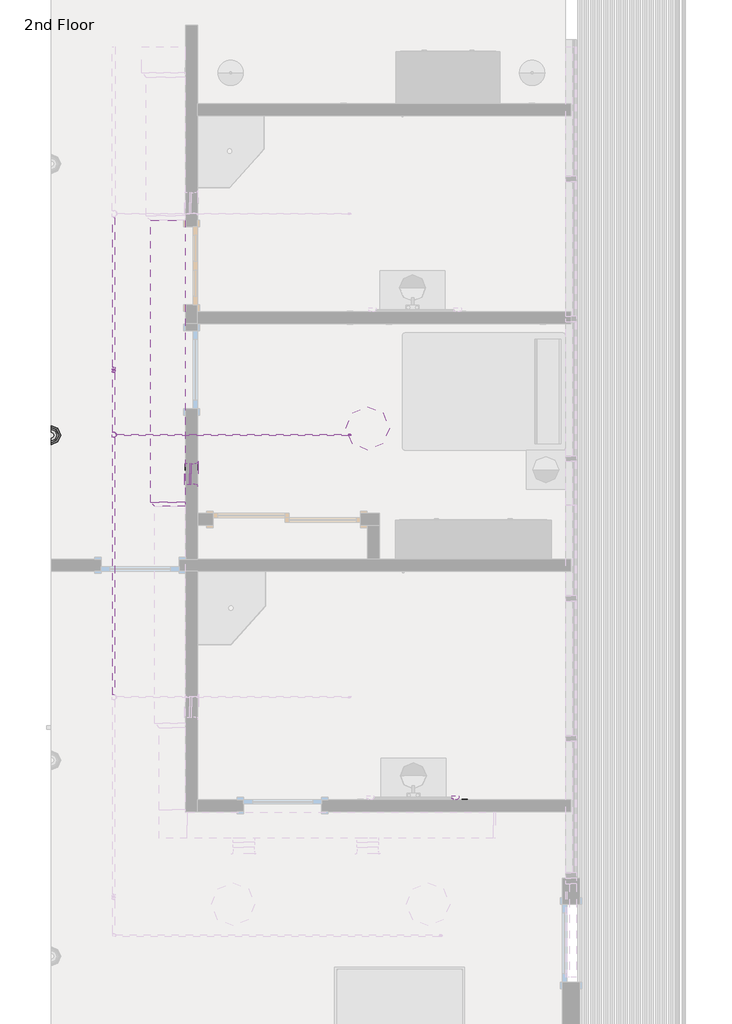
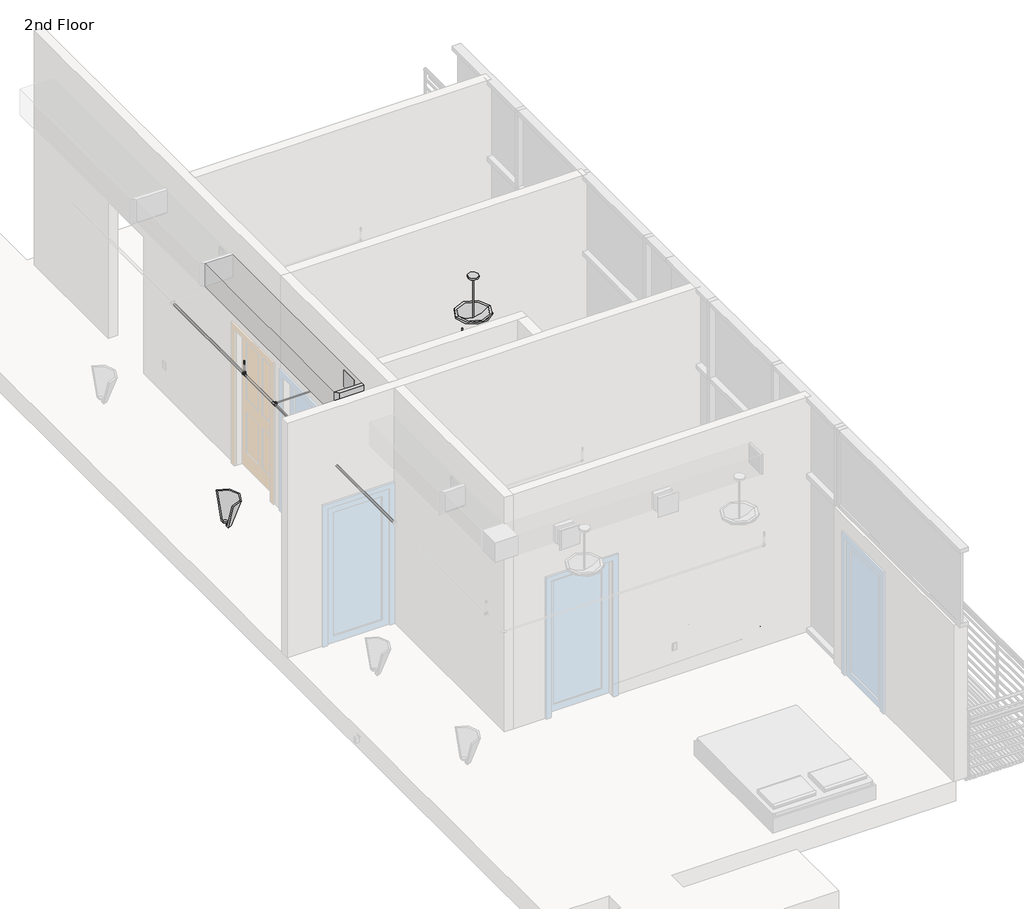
# One storey, part 4 of 7: 26 pipe fittings, 26 pipe segments, 3 light fixtures, 3 proxies, 2 duct fittings, 2 duct segments, 2 fire suppression terminals, 1 air terminal.
"""IFC4 building model written with IfcOpenShell, lengths in millimetres."""

from ifc_helpers import new_model, si_unit, point, frame, frame_2d, origin, place, context, project, spatial, polyline, circle_curve, trimmed, segment, composite_curve, outline, extrude, transform, mapped, element, save
from components import air_terminal_37217d21, receptacle_gfci_367a9a66, rectangular_duct_takeoff_sidewall_standard_8ecd27dc, rectangular_duct_transition_standard_28b61a07, fire_suppression_terminal_f250fbbb, pendant_light_hemisphere_100w_120v_61837e73, sconce_light_uplight_100w_120v_70b3641e, bow_series_bow_series_fd234733, pipe_cross1_standard_2_39504a02, pipe_elbow_standard_aad62f2d, pipe_elbow_standard_e0f7415f, pipe_pvc_bend_standard_7b507ca5, pipe_pvc_bend_standard_cea5d147, pipe_tee_standard_1a6ca384, pipe_tee_standard_feafe2f1, pipe_transition_eccentric_standard_8ef0957a, pipe_transition_eccentric_standard_3095b3c8, pipe_transition_eccentric_standard_1e99e33f

model = new_model("IFC4")

# Units and contexts
model_context = context("Model", 3, world=origin())
ifc_project = project(units=[si_unit("LENGTHUNIT", "METRE", prefix="MILLI")], contexts=[model_context])

# Site, building, storey
site = spatial("IfcSite", under=ifc_project)
building = spatial("IfcBuilding", under=site)
storey = spatial("IfcBuildingStorey", under=building, Name="2nd Floor", Elevation=7924.8)

# Air terminal
placement = place(None, origin())
air_terminal_shape = air_terminal_37217d21(model_context)
element("IfcAirTerminal", 1, ObjectType="Sidewall Diffuser : 10\" x 10\"", at=placement, inside=storey, context=model_context, shape_type="MappedRepresentation", body=[
    mapped(air_terminal_shape, transform((-2750.6530996, 1101.4310017, 10972.8), x_axis=(0.0, 1.0, 0.0), y_axis=(-1.0, 0.0, 0.0), z_axis=(0.0, 0.0, 1.0))),
])

# Proxies
receptacle_gfci_shape = receptacle_gfci_367a9a66(model_context)
element("IfcBuildingElementProxy", 2, Name="Receptacle : Standard", ObjectType="Receptacle : Standard", at=placement, inside=storey, context=model_context, shape_type="MappedRepresentation", body=[
    mapped(receptacle_gfci_shape, transform((-2749.3104947, 1177.6310017, 8382.0), x_axis=(0.0, 1.0, 0.0), y_axis=(0.0, 0.0, 1.0), z_axis=(1.0, 0.0, 0.0))),
])
element("IfcBuildingElementProxy", 3, Name="Receptacle : Standard", ObjectType="Receptacle : Standard", at=placement, inside=storey, context=model_context, shape_type="MappedRepresentation", body=[
    mapped(receptacle_gfci_shape, transform((381.2395053, -2714.9189983, 8382.0), x_axis=(-1.0, 0.0, 0.0), y_axis=(0.0, 0.0, 1.0), z_axis=(0.0, 1.0, 0.0))),
])
element("IfcBuildingElementProxy", 4, Name="Receptacle : Standard", ObjectType="Receptacle : Standard", at=placement, inside=storey, context=model_context, shape_type="MappedRepresentation", body=[
    mapped(receptacle_gfci_shape, transform((-2889.0104947, 1177.6310017, 8382.0), x_axis=(0.0, -1.0, 0.0), y_axis=(0.0, 0.0, 1.0), z_axis=(-1.0, 0.0, 0.0))),
])

# Duct fittings
rectangular_duct_takeoff_sidewall_standard_shape = rectangular_duct_takeoff_sidewall_standard_8ecd27dc(model_context)
element("IfcDuctFitting", 5, ObjectType="Rectangular Duct Takeoff - Sidewall : Standard", at=placement, inside=storey, context=model_context, shape_type="MappedRepresentation", body=[
    mapped(rectangular_duct_takeoff_sidewall_standard_shape, transform((-2895.3604947, 1101.4310017, 10972.8), x_axis=(1.0, 0.0, 0.0), y_axis=(0.0, -1.0, 0.0), z_axis=(0.0, 0.0, -1.0))),
])
rectangular_duct_transition_standard_shape = rectangular_duct_transition_standard_28b61a07(model_context)
element("IfcDuctFitting", 6, ObjectType="Rectangular Duct Transition : Standard", at=placement, inside=storey, context=model_context, shape_type="MappedRepresentation", body=[
    mapped(rectangular_duct_transition_standard_shape, transform((-3073.1604947, 720.4310017, 10998.2), x_axis=(0.0, 1.0, 0.0), y_axis=(1.0, 0.0, 0.0), z_axis=(0.0, 0.0, -1.0))),
])

# Duct segments
element("IfcDuctSegment", 7, ObjectType="Mitered Elbows / Taps Sidewall", at=placement, inside=storey, context=model_context, shape_type="SweptSolid", body=[
    extrude(outline(polyline([(-2844.5604947, 974.4310017), (-2844.5604947, 1228.4310017), (-2826.8530996, 1228.4310017), (-2826.8530996, 974.4310017), (-2844.5604947, 974.4310017)])), frame((0.0, 0.0, 10845.8), z_axis=(0.0, 0.0, 1.0), x_axis=(1.0, 0.0, 0.0)), (0.0, 0.0, 1.0), 254.0),
])
element("IfcDuctSegment", 8, ObjectType="Mitered Elbows / Tees", at=placement, inside=storey, context=model_context, shape_type="SweptSolid", body=[
    extrude(outline(polyline([(-2895.3604947, 771.2310017), (-3301.7604947, 771.2310017), (-3301.7604947, 4073.2310017), (-2895.3604947, 4073.2310017), (-2895.3604947, 771.2310017)])), frame((0.0, 0.0, 10820.4), z_axis=(0.0, 0.0, 1.0), x_axis=(1.0, 0.0, 0.0)), (0.0, 0.0, 1.0), 355.6),
])

# Fire suppression terminals
fire_suppression_terminal_shape = fire_suppression_terminal_f250fbbb(model_context)
element("IfcFireSuppressionTerminal", 9, ObjectType="Sprinkler - Upright : 1/2\" Upright", at=placement, inside=storey, context=model_context, shape_type="MappedRepresentation", body=[
    mapped(fire_suppression_terminal_shape, transform((-3733.5604947, 2320.6310017, 10820.4), x_axis=(1.0, 0.0, 0.0), y_axis=(0.0, 1.0, 0.0), z_axis=(0.0, 0.0, 1.0))),
])
element("IfcFireSuppressionTerminal", 10, ObjectType="Sprinkler - Upright : 1/2\" Upright", at=placement, inside=storey, context=model_context, shape_type="MappedRepresentation", body=[
    mapped(fire_suppression_terminal_shape, transform((-961.8439612, 1558.6310017, 10820.4), x_axis=(1.0, 0.0, 0.0), y_axis=(0.0, 1.0, 0.0), z_axis=(0.0, 0.0, 1.0))),
])

# Light fixtures
pendant_light_hemisphere_100w_120v_shape = pendant_light_hemisphere_100w_120v_61837e73(model_context)
element("IfcLightFixture", 11, ObjectType="Pendant Light - Hemisphere : 150W - 120V", at=placement, inside=storey, context=model_context, shape_type="MappedRepresentation", body=[
    mapped(pendant_light_hemisphere_100w_120v_shape, transform((-755.4104947, 1634.8310017, 11582.4), x_axis=(1.0, 0.0, 0.0), y_axis=(0.0, -1.0, 0.0), z_axis=(0.0, 0.0, -1.0))),
])
sconce_light_uplight_100w_120v_shape = sconce_light_uplight_100w_120v_70b3641e(model_context)
element("IfcLightFixture", 12, ObjectType="Sconce Light - Uplight : 60W - 120V", at=placement, inside=storey, context=model_context, shape_type="MappedRepresentation", body=[
    mapped(sconce_light_uplight_100w_120v_shape, transform((-4467.0439612, 1555.1174546, 9245.6), x_axis=(0.0, 1.0, 0.0), y_axis=(0.0, 0.0, 1.0), z_axis=(1.0, 0.0, 0.0))),
])
bow_series_bow_series_shape = bow_series_bow_series_fd234733(model_context)
element("IfcLightFixture", 13, ObjectType="bow series : bow series", at=placement, inside=storey, context=model_context, shape_type="MappedRepresentation", body=[
    mapped(bow_series_bow_series_shape, transform((274.0311388, -2679.1938983, 9144.0), x_axis=(-1.0, 0.0, 0.0), y_axis=(0.0, -1.0, 0.0), z_axis=(0.0, 0.0, 1.0))),
])

# Pipe fittings
pipe_cross1_standard_2_shape = pipe_cross1_standard_2_39504a02(model_context)
element("IfcPipeFitting", 14, ObjectType="Pipe Cross1 : Standard 2", at=placement, inside=storey, context=model_context, shape_type="MappedRepresentation", body=[
    mapped(pipe_cross1_standard_2_shape, transform((-937.0514215, 9.357427, 7213.6), x_axis=(1.0, 0.0, 0.0), y_axis=(0.0, 1.0, 0.0), z_axis=(0.0, 0.0, 1.0))),
])
pipe_elbow_standard_shape = pipe_elbow_standard_aad62f2d(model_context)
element("IfcPipeFitting", 15, ObjectType="Pipe Elbow : Standard", at=placement, inside=storey, context=model_context, shape_type="MappedRepresentation", body=[
    mapped(pipe_elbow_standard_shape, transform((1153.0952272, -2786.7000325, 8185.15), x_axis=(0.0, -1.0, 0.0), y_axis=(0.0, 0.0, -1.0), z_axis=(1.0, 0.0, 0.0))),
])
element("IfcPipeFitting", 16, ObjectType="Pipe Elbow : Standard", at=placement, inside=storey, context=model_context, shape_type="MappedRepresentation", body=[
    mapped(pipe_elbow_standard_shape, transform((949.8952272, -2761.2999309, 8185.15), x_axis=(0.0, 0.0, 1.0), y_axis=(0.0, 1.0, 0.0), z_axis=(-1.0, 0.0, 0.0))),
])
element("IfcPipeFitting", 17, ObjectType="Pipe Elbow : Standard", at=placement, inside=storey, context=model_context, shape_type="MappedRepresentation", body=[
    mapped(pipe_elbow_standard_shape, transform((1153.1064509, -2786.7000325, 7315.2), x_axis=(0.0, 0.0, -1.0), y_axis=(-1.0, 0.0, 0.0), z_axis=(0.0, 1.0, 0.0))),
])
element("IfcPipeFitting", 18, ObjectType="Pipe Elbow : Standard", at=placement, inside=storey, context=model_context, shape_type="MappedRepresentation", body=[
    mapped(pipe_elbow_standard_shape, transform((949.8952272, -2761.2999309, 7213.6), x_axis=(0.0, 0.0, -1.0), y_axis=(-1.0, 0.0, 0.0), z_axis=(0.0, 1.0, 0.0))),
])
element("IfcPipeFitting", 19, ObjectType="Pipe Elbow : Standard", at=placement, inside=storey, context=model_context, shape_type="MappedRepresentation", body=[
    mapped(pipe_elbow_standard_shape, transform((-3324.0439612, 48.7450979, 7315.2), x_axis=(0.0, 1.0, 0.0), y_axis=(1.0, 0.0, 0.0), z_axis=(0.0, 0.0, -1.0))),
])
element("IfcPipeFitting", 20, ObjectType="Pipe Elbow : Standard", at=placement, inside=storey, context=model_context, shape_type="MappedRepresentation", body=[
    mapped(pipe_elbow_standard_shape, transform((-2473.0812086, 48.7450979, 8839.2), x_axis=(0.0, 0.0, 1.0), y_axis=(0.0, -1.0, 0.0), z_axis=(1.0, 0.0, 0.0))),
])
element("IfcPipeFitting", 21, ObjectType="Pipe Elbow : Standard", at=placement, inside=storey, context=model_context, shape_type="MappedRepresentation", body=[
    mapped(pipe_elbow_standard_shape, transform((-2244.6258143, 9.3575556, 8839.2), x_axis=(0.0, 0.0, 1.0), y_axis=(0.0, -1.0, 0.0), z_axis=(1.0, 0.0, 0.0))),
])
pipe_elbow_standard_2_shape = pipe_elbow_standard_e0f7415f(model_context)
element("IfcPipeFitting", 22, ObjectType="Pipe Elbow : Standard", at=placement, inside=storey, context=model_context, shape_type="MappedRepresentation", body=[
    mapped(pipe_elbow_standard_2_shape, transform((-3260.5439612, 9.3576611, 7213.6), x_axis=(0.0, 1.0, 0.0), y_axis=(1.0, 0.0, 0.0), z_axis=(0.0, 0.0, -1.0))),
])
element("IfcPipeFitting", 23, ObjectType="Pipe Elbow1 : Standard 2", at=placement, inside=storey, context=model_context, shape_type="MappedRepresentation", body=[
    mapped(pipe_elbow_standard_shape, transform((-961.8439612, 1558.6310017, 10668.0), x_axis=(0.0, 0.0, -1.0), y_axis=(-1.0, 0.0, 0.0), z_axis=(0.0, 1.0, 0.0))),
])
element("IfcPipeFitting", 24, ObjectType="Pipe Elbow1 : Standard 2", at=placement, inside=storey, context=model_context, shape_type="MappedRepresentation", body=[
    mapped(pipe_elbow_standard_shape, transform((-339.8482555, 9.357427, 8428.0375), x_axis=(0.0, 1.0, 0.0), y_axis=(0.0, 0.0, -1.0), z_axis=(-1.0, 0.0, 0.0))),
])
element("IfcPipeFitting", 25, ObjectType="Pipe Elbow1 : Standard 2", at=placement, inside=storey, context=model_context, shape_type="MappedRepresentation", body=[
    mapped(pipe_elbow_standard_shape, transform((-339.8482555, 9.357427, 7213.6), x_axis=(0.0, 0.0, -1.0), y_axis=(-1.0, 0.0, 0.0), z_axis=(0.0, 1.0, 0.0))),
])
pipe_pvc_bend_standard_shape = pipe_pvc_bend_standard_7b507ca5(model_context)
element("IfcPipeFitting", 26, ObjectType="Pipe PVC Bend : Standard", at=placement, inside=storey, context=model_context, shape_type="MappedRepresentation", body=[
    mapped(pipe_pvc_bend_standard_shape, transform((1051.4952322, -2437.106294, 7607.9329509), x_axis=(0.0, -0.9997830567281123, 0.02082881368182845), y_axis=(0.0, 0.02082881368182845, 0.9997830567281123), z_axis=(-1.0, 0.0, 0.0))),
])
pipe_pvc_bend_standard_2_shape = pipe_pvc_bend_standard_cea5d147(model_context)
element("IfcPipeFitting", 27, ObjectType="Pipe PVC Bend : Standard", at=placement, inside=storey, context=model_context, shape_type="MappedRepresentation", body=[
    mapped(pipe_pvc_bend_standard_2_shape, transform((1051.4952322, -2148.4058495, 7601.9183583), x_axis=(0.0, 0.9997830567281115, -0.0208288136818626), y_axis=(-0.9997832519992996, -0.0004336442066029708, -0.020814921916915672), z_axis=(-0.020819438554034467, 0.020824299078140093, 0.9995663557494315))),
])
pipe_tee_standard_shape = pipe_tee_standard_1a6ca384(model_context)
element("IfcPipeFitting", 28, ObjectType="Pipe Tee : Standard", at=placement, inside=storey, context=model_context, shape_type="MappedRepresentation", body=[
    mapped(pipe_tee_standard_shape, transform((-2473.0812086, 48.7450979, 7315.2), x_axis=(-1.0, 0.0, 0.0), y_axis=(0.0, 0.0, -1.0), z_axis=(0.0, -1.0, 0.0))),
])
element("IfcPipeFitting", 29, ObjectType="Pipe Tee : Standard", at=placement, inside=storey, context=model_context, shape_type="MappedRepresentation", body=[
    mapped(pipe_tee_standard_shape, transform((-2244.6258143, 9.3575556, 7213.6), x_axis=(-0.9999999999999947, 1.0385845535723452e-07, 0.0), y_axis=(0.0, 0.0, -1.0000000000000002), z_axis=(-1.0385845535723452e-07, -0.9999999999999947, 0.0))),
])
pipe_tee_standard_2_shape = pipe_tee_standard_feafe2f1(model_context)
element("IfcPipeFitting", 30, ObjectType="Pipe Tee : Standard", at=placement, inside=storey, context=model_context, shape_type="MappedRepresentation", body=[
    mapped(pipe_tee_standard_2_shape, transform((-1039.2875177, 2919.1285823, 7315.2), x_axis=(0.0, 1.0, 0.0), y_axis=(-1.0, 0.0, 0.0), z_axis=(0.0, 0.0, 1.0))),
])
element("IfcPipeFitting", 31, ObjectType="Pipe Tee : Standard", at=placement, inside=storey, context=model_context, shape_type="MappedRepresentation", body=[
    mapped(pipe_tee_standard_2_shape, transform((-1039.2875177, 48.7450979, 7315.2), x_axis=(0.0, -1.0, 0.0), y_axis=(1.0, 0.0, 0.0), z_axis=(0.0, 0.0, 1.0))),
])
element("IfcPipeFitting", 32, ObjectType="Pipe Tee : Standard", at=placement, inside=storey, context=model_context, shape_type="MappedRepresentation", body=[
    mapped(pipe_tee_standard_2_shape, transform((-3733.5604947, 1558.6310017, 10668.0), x_axis=(0.0, -1.0, 0.0), y_axis=(-1.0, 0.0, 0.0), z_axis=(0.0, 0.0, -1.0))),
])
element("IfcPipeFitting", 33, ObjectType="Pipe Tee : Standard", at=placement, inside=storey, context=model_context, shape_type="MappedRepresentation", body=[
    mapped(pipe_tee_standard_2_shape, transform((-3733.5604947, 2320.6310017, 10668.0), x_axis=(0.0, -1.0, 0.0), y_axis=(0.0, 0.0, -1.0), z_axis=(1.0, 0.0, 0.0))),
])
pipe_transition_eccentric_standard_shape = pipe_transition_eccentric_standard_8ef0957a(model_context)
element("IfcPipeFitting", 34, ObjectType="Pipe Transition Eccentric : Standard", at=placement, inside=storey, context=model_context, shape_type="MappedRepresentation", body=[
    mapped(pipe_transition_eccentric_standard_shape, transform((-992.6139215, 9.357427, 7213.6), x_axis=(-1.0, 0.0, 0.0), y_axis=(0.0, -1.0, 0.0), z_axis=(0.0, 0.0, 1.0))),
])
pipe_transition_eccentric_standard_2_shape = pipe_transition_eccentric_standard_3095b3c8(model_context)
element("IfcPipeFitting", 35, ObjectType="Pipe Transition Eccentric : Standard", at=placement, inside=storey, context=model_context, shape_type="MappedRepresentation", body=[
    mapped(pipe_transition_eccentric_standard_2_shape, transform((-1069.4500177, 48.7450979, 7315.2), x_axis=(-1.0, 0.0, 0.0), y_axis=(0.0, 0.0, -1.0), z_axis=(0.0, -1.0, 0.0))),
])
element("IfcPipeFitting", 36, ObjectType="Pipe Transition Eccentric : Standard", at=placement, inside=storey, context=model_context, shape_type="MappedRepresentation", body=[
    mapped(pipe_transition_eccentric_standard_2_shape, transform((-1009.1250177, 2919.1285823, 7315.2), x_axis=(1.0, 0.0, 0.0), y_axis=(0.0, 0.0, 1.0), z_axis=(0.0, -1.0, 0.0))),
])
element("IfcPipeFitting", 37, ObjectType="Pipe Transition Eccentric : Standard", at=placement, inside=storey, context=model_context, shape_type="MappedRepresentation", body=[
    mapped(pipe_transition_eccentric_standard_2_shape, transform((-3703.3979947, 1558.6310017, 10668.0), x_axis=(1.0, 0.0, 0.0), y_axis=(0.0, -1.0, 0.0), z_axis=(0.0, 0.0, -1.0))),
])
element("IfcPipeFitting", 38, ObjectType="Pipe Transition Eccentric : Standard", at=placement, inside=storey, context=model_context, shape_type="MappedRepresentation", body=[
    mapped(pipe_transition_eccentric_standard_2_shape, transform((-3733.5604947, 2320.6310017, 10698.1625), x_axis=(0.0, 0.0, 1.0), y_axis=(1.0, 0.0, 0.0), z_axis=(0.0, 1.0, 0.0))),
])
pipe_transition_eccentric_standard_3_shape = pipe_transition_eccentric_standard_1e99e33f(model_context)
element("IfcPipeFitting", 39, ObjectType="Pipe Transition Eccentric : Standard", at=placement, inside=storey, context=model_context, shape_type="MappedRepresentation", body=[
    mapped(pipe_transition_eccentric_standard_3_shape, transform((-829.1014723, 9.357427, 7213.6), x_axis=(-1.0, 0.0, 0.0), y_axis=(0.0, 1.0, 0.0), z_axis=(0.0, 0.0, -1.0))),
])

# Pipe segments
element("IfcPipeSegment", 40, ObjectType="PVC", at=placement, inside=storey, context=model_context, shape_type="SweptSolid", body=[
    extrude(outline(composite_curve([segment(trimmed(circle_curve(frame_2d((0.0, 24.1299999)), 24.13), [point((-24.13, 24.1299999))], [point((0.0, 48.26))], False, "CARTESIAN"), True, "CONTINUOUS"), segment(trimmed(circle_curve(frame_2d((0.0, 24.1299999)), 24.13), [point((0.0, 48.26))], [point((24.13, 24.1299999))], False, "CARTESIAN"), True, "CONTINUOUS"), segment(trimmed(circle_curve(frame_2d((0.0, 24.1299999)), 24.13), [point((24.13, 24.1299999))], [point((0.0, 0.0))], False, "CARTESIAN"), True, "CONTINUOUS"), segment(trimmed(circle_curve(frame_2d((0.0, 24.1299999)), 24.13), [point((0.0, 0.0))], [point((-24.13, 24.1299999))], False, "CARTESIAN"), True, "CONTINUOUS")], self_intersect=False)), frame((1051.4952322, -2188.8874584, 7578.6264892), z_axis=(0.0, -0.9997830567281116, 0.020828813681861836), x_axis=(1.0, 0.0, 0.0)), (0.0, 0.0, 1.0), 209.5951618),
])
element("IfcPipeSegment", 41, ObjectType="PVC", at=placement, inside=storey, context=model_context, shape_type="SweptSolid", body=[
    extrude(outline(composite_curve([segment(trimmed(circle_curve(frame_2d((0.0, 24.13)), 24.13), [point((-24.13, 24.13))], [point((0.0, 48.26))], False, "CARTESIAN"), True, "CONTINUOUS"), segment(trimmed(circle_curve(frame_2d((0.0, 24.13)), 24.13), [point((0.0, 48.26))], [point((24.13, 24.13))], False, "CARTESIAN"), True, "CONTINUOUS"), segment(trimmed(circle_curve(frame_2d((0.0, 24.13)), 24.13), [point((24.13, 24.13))], [point((0.0, 0.0))], False, "CARTESIAN"), True, "CONTINUOUS"), segment(trimmed(circle_curve(frame_2d((0.0, 24.13)), 24.13), [point((0.0, 0.0))], [point((-24.13, 24.13))], False, "CARTESIAN"), True, "CONTINUOUS")], self_intersect=False)), frame((1051.4952322, -2461.236294, 7647.1131945), z_axis=(-1.809893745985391e-08, 1.8102998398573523e-08, 0.9999999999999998), x_axis=(1.0, 0.0, 1.8098937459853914e-08)), (0.0, 0.0, 1.0), 277.6868059),
])
element("IfcPipeSegment", 42, ObjectType="PVC", at=placement, inside=storey, context=model_context, shape_type="SweptSolid", body=[
    extrude(outline(composite_curve([segment(trimmed(circle_curve(frame_2d((0.0, 44.45)), 44.45), [point((-44.45, 44.45))], [point((0.0, 88.8999999))], False, "CARTESIAN"), True, "CONTINUOUS"), segment(trimmed(circle_curve(frame_2d((0.0, 44.45)), 44.45), [point((0.0, 88.8999999))], [point((44.45, 44.45))], False, "CARTESIAN"), True, "CONTINUOUS"), segment(trimmed(circle_curve(frame_2d((0.0, 44.45)), 44.45), [point((44.45, 44.45))], [point((0.0, 0.0))], False, "CARTESIAN"), True, "CONTINUOUS"), segment(trimmed(circle_curve(frame_2d((0.0, 44.45)), 44.45), [point((0.0, 0.0))], [point((-44.45, 44.45))], False, "CARTESIAN"), True, "CONTINUOUS")], self_intersect=False)), frame((-1102.7042057, 3232.2644251, 7364.9534797), z_axis=(0.0, -0.9999457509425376, 0.010416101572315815), x_axis=(1.0, 0.0, 0.0)), (0.0, 0.0, 1.0), 3641.5458923),
])
element("IfcPipeSegment", 43, ObjectType="Standard", at=placement, inside=storey, context=model_context, shape_type="SweptSolid", body=[
    extrude(outline(composite_curve([segment(trimmed(circle_curve(frame_2d((8185.15, 1153.0952272)), 7.9375), [point((8185.15, 1145.1577272))], [point((8177.2125, 1153.0952272))], False, "CARTESIAN"), True, "CONTINUOUS"), segment(trimmed(circle_curve(frame_2d((8185.15, 1153.0952272)), 7.9375), [point((8177.2125, 1153.0952272))], [point((8185.15, 1161.0327272))], False, "CARTESIAN"), True, "CONTINUOUS"), segment(trimmed(circle_curve(frame_2d((8185.15, 1153.0952272)), 7.9375), [point((8185.15, 1161.0327272))], [point((8193.0875, 1153.0952272))], False, "CARTESIAN"), True, "CONTINUOUS"), segment(trimmed(circle_curve(frame_2d((8185.15, 1153.0952272)), 7.9375), [point((8193.0875, 1153.0952272))], [point((8185.15, 1145.1577272))], False, "CARTESIAN"), True, "CONTINUOUS")], self_intersect=False)), frame((0.0, -2769.2375325, 0.0), z_axis=(0.0, 1.0, 0.0), x_axis=(0.0, 0.0, 1.0)), (0.0, 0.0, 1.0), 54.3187435),
])
element("IfcPipeSegment", 44, ObjectType="Standard", at=placement, inside=storey, context=model_context, shape_type="SweptSolid", body=[
    extrude(outline(composite_curve([segment(trimmed(circle_curve(frame_2d((1153.0952272, -2786.7000325)), 7.9375), [point((1145.1577272, -2786.7000325))], [point((1153.0952272, -2778.7625325))], False, "CARTESIAN"), True, "CONTINUOUS"), segment(trimmed(circle_curve(frame_2d((1153.0952272, -2786.7000325)), 7.9375), [point((1153.0952272, -2778.7625325))], [point((1161.0327272, -2786.7000325))], False, "CARTESIAN"), True, "CONTINUOUS"), segment(trimmed(circle_curve(frame_2d((1153.0952272, -2786.7000325)), 7.9375), [point((1161.0327272, -2786.7000325))], [point((1153.0952272, -2794.6375325))], False, "CARTESIAN"), True, "CONTINUOUS"), segment(trimmed(circle_curve(frame_2d((1153.0952272, -2786.7000325)), 7.9375), [point((1153.0952272, -2794.6375325))], [point((1145.1577272, -2786.7000325))], False, "CARTESIAN"), True, "CONTINUOUS")], self_intersect=False)), frame((0.0, 0.0, 7332.6625), z_axis=(0.0, 0.0, 1.0), x_axis=(1.0, 0.0, 0.0)), (0.0, 0.0, 1.0), 835.025),
])
element("IfcPipeSegment", 45, ObjectType="Standard", at=placement, inside=storey, context=model_context, shape_type="SweptSolid", body=[
    extrude(outline(composite_curve([segment(trimmed(circle_curve(frame_2d((-2473.0812086, 48.7450979)), 7.9375), [point((-2465.1437086, 48.7450979))], [point((-2473.0812086, 40.8075979))], False, "CARTESIAN"), True, "CONTINUOUS"), segment(trimmed(circle_curve(frame_2d((-2473.0812086, 48.7450979)), 7.9375), [point((-2473.0812086, 40.8075979))], [point((-2481.0187086, 48.7450979))], False, "CARTESIAN"), True, "CONTINUOUS"), segment(trimmed(circle_curve(frame_2d((-2473.0812086, 48.7450979)), 7.9375), [point((-2481.0187086, 48.7450979))], [point((-2473.0812086, 56.6825979))], False, "CARTESIAN"), True, "CONTINUOUS"), segment(trimmed(circle_curve(frame_2d((-2473.0812086, 48.7450979)), 7.9375), [point((-2473.0812086, 56.6825979))], [point((-2465.1437086, 48.7450979))], False, "CARTESIAN"), True, "CONTINUOUS")], self_intersect=False)), frame((0.0, 0.0, 7339.0125), z_axis=(0.0, 0.0, 1.0), x_axis=(1.0, 0.0, 0.0)), (0.0, 0.0, 1.0), 1482.725),
])
element("IfcPipeSegment", 46, ObjectType="Standard", at=placement, inside=storey, context=model_context, shape_type="SweptSolid", body=[
    extrude(outline(composite_curve([segment(trimmed(circle_curve(frame_2d((48.7450979, 7315.2)), 7.9375), [point((48.7450979, 7323.1375))], [point((56.6825979, 7315.2))], False, "CARTESIAN"), True, "CONTINUOUS"), segment(trimmed(circle_curve(frame_2d((48.7450979, 7315.2)), 7.9375), [point((56.6825979, 7315.2))], [point((48.7450979, 7307.2625))], False, "CARTESIAN"), True, "CONTINUOUS"), segment(trimmed(circle_curve(frame_2d((48.7450979, 7315.2)), 7.9375), [point((48.7450979, 7307.2625))], [point((40.8075979, 7315.2))], False, "CARTESIAN"), True, "CONTINUOUS"), segment(trimmed(circle_curve(frame_2d((48.7450979, 7315.2)), 7.9375), [point((40.8075979, 7315.2))], [point((48.7450979, 7323.1375))], False, "CARTESIAN"), True, "CONTINUOUS")], self_intersect=False)), frame((-2449.2687086, 0.0, 0.0), z_axis=(1.0, 0.0, 0.0), x_axis=(0.0, 1.0, 0.0)), (0.0, 0.0, 1.0), 1372.6749409),
])
element("IfcPipeSegment", 47, ObjectType="Standard", at=placement, inside=storey, context=model_context, shape_type="SweptSolid", body=[
    extrude(outline(composite_curve([segment(trimmed(circle_curve(frame_2d((8610.6, -126.8021776)), 7.9375), [point((8610.6, -134.7396776))], [point((8602.6625, -126.8021776))], False, "CARTESIAN"), True, "CONTINUOUS"), segment(trimmed(circle_curve(frame_2d((8610.6, -126.8021776)), 7.9375), [point((8602.6625, -126.8021776))], [point((8610.6, -118.8646776))], False, "CARTESIAN"), True, "CONTINUOUS"), segment(trimmed(circle_curve(frame_2d((8610.6, -126.8021776)), 7.9375), [point((8610.6, -118.8646776))], [point((8618.5375, -126.8021776))], False, "CARTESIAN"), True, "CONTINUOUS"), segment(trimmed(circle_curve(frame_2d((8610.6, -126.8021776)), 7.9375), [point((8618.5375, -126.8021776))], [point((8610.6, -134.7396776))], False, "CARTESIAN"), True, "CONTINUOUS")], self_intersect=False)), frame((0.0, 2936.5910823, 0.0), z_axis=(0.0, 1.0, 0.0), x_axis=(0.0, 0.0, 1.0)), (0.0, 0.0, 1.0), 63.5729313),
])
element("IfcPipeSegment", 48, ObjectType="Standard", at=placement, inside=storey, context=model_context, shape_type="SweptSolid", body=[
    extrude(outline(composite_curve([segment(trimmed(circle_curve(frame_2d((-126.8021776, 2919.1285823)), 7.9375), [point((-134.7396776, 2919.1285823))], [point((-126.8021776, 2927.0660823))], False, "CARTESIAN"), True, "CONTINUOUS"), segment(trimmed(circle_curve(frame_2d((-126.8021776, 2919.1285823)), 7.9375), [point((-126.8021776, 2927.0660823))], [point((-118.8646776, 2919.1285823))], False, "CARTESIAN"), True, "CONTINUOUS"), segment(trimmed(circle_curve(frame_2d((-126.8021776, 2919.1285823)), 7.9375), [point((-118.8646776, 2919.1285823))], [point((-126.8021776, 2911.1910823))], False, "CARTESIAN"), True, "CONTINUOUS"), segment(trimmed(circle_curve(frame_2d((-126.8021776, 2919.1285823)), 7.9375), [point((-126.8021776, 2911.1910823))], [point((-134.7396776, 2919.1285823))], False, "CARTESIAN"), True, "CONTINUOUS")], self_intersect=False)), frame((0.0, 0.0, 7332.6625), z_axis=(0.0, 0.0, 1.0), x_axis=(1.0, 0.0, 0.0)), (0.0, 0.0, 1.0), 1260.475),
])
element("IfcPipeSegment", 49, ObjectType="Standard", at=placement, inside=storey, context=model_context, shape_type="SweptSolid", body=[
    extrude(outline(composite_curve([segment(trimmed(circle_curve(frame_2d((7315.2, -1039.2875177)), 14.2875), [point((7315.2, -1053.5750177))], [point((7300.9125, -1039.2875177))], False, "CARTESIAN"), True, "CONTINUOUS"), segment(trimmed(circle_curve(frame_2d((7315.2, -1039.2875177)), 14.2875), [point((7300.9125, -1039.2875177))], [point((7315.2, -1025.0000177))], False, "CARTESIAN"), True, "CONTINUOUS"), segment(trimmed(circle_curve(frame_2d((7315.2, -1039.2875177)), 14.2875), [point((7315.2, -1025.0000177))], [point((7329.4875, -1039.2875177))], False, "CARTESIAN"), True, "CONTINUOUS"), segment(trimmed(circle_curve(frame_2d((7315.2, -1039.2875177)), 14.2875), [point((7329.4875, -1039.2875177))], [point((7315.2, -1053.5750177))], False, "CARTESIAN"), True, "CONTINUOUS")], self_intersect=False)), frame((0.0, 78.9075979, 0.0), z_axis=(0.0, 1.0, 0.0), x_axis=(0.0, 0.0, 1.0)), (0.0, 0.0, 1.0), 2810.0584844),
])
element("IfcPipeSegment", 50, ObjectType="Standard", at=placement, inside=storey, context=model_context, shape_type="SweptSolid", body=[
    extrude(outline(composite_curve([segment(trimmed(circle_curve(frame_2d((-2244.6258143, 9.3575556)), 7.9375), [point((-2244.6258143, 17.2950556))], [point((-2236.6883143, 9.3575556))], False, "CARTESIAN"), True, "CONTINUOUS"), segment(trimmed(circle_curve(frame_2d((-2244.6258143, 9.3575556)), 7.9375), [point((-2236.6883143, 9.3575556))], [point((-2244.6258143, 1.4200556))], False, "CARTESIAN"), True, "CONTINUOUS"), segment(trimmed(circle_curve(frame_2d((-2244.6258143, 9.3575556)), 7.9375), [point((-2244.6258143, 1.4200556))], [point((-2252.5633143, 9.3575556))], False, "CARTESIAN"), True, "CONTINUOUS"), segment(trimmed(circle_curve(frame_2d((-2244.6258143, 9.3575556)), 7.9375), [point((-2252.5633143, 9.3575556))], [point((-2244.6258143, 17.2950556))], False, "CARTESIAN"), True, "CONTINUOUS")], self_intersect=False)), frame((0.0, 0.0, 7237.4125), z_axis=(0.0, 0.0, 1.0), x_axis=(1.0, 0.0, 0.0)), (0.0, 0.0, 1.0), 1584.325),
])
element("IfcPipeSegment", 51, ObjectType="Standard", at=placement, inside=storey, context=model_context, shape_type="SweptSolid", body=[
    extrude(outline(composite_curve([segment(trimmed(circle_curve(frame_2d((7213.6, -937.0514215)), 26.9875), [point((7213.6, -964.0389215))], [point((7186.6125, -937.0514215))], False, "CARTESIAN"), True, "CONTINUOUS"), segment(trimmed(circle_curve(frame_2d((7213.6, -937.0514215)), 26.9875), [point((7186.6125, -937.0514215))], [point((7213.6, -910.0639215))], False, "CARTESIAN"), True, "CONTINUOUS"), segment(trimmed(circle_curve(frame_2d((7213.6, -937.0514215)), 26.9875), [point((7213.6, -910.0639215))], [point((7240.5875, -937.0514215))], False, "CARTESIAN"), True, "CONTINUOUS"), segment(trimmed(circle_curve(frame_2d((7213.6, -937.0514215)), 26.9875), [point((7240.5875, -937.0514215))], [point((7213.6, -964.0389215))], False, "CARTESIAN"), True, "CONTINUOUS")], self_intersect=False)), frame((0.0, 64.919927, 0.0), z_axis=(0.0, 1.0, 0.0), x_axis=(0.0, 0.0, 1.0)), (0.0, 0.0, 1.0), 2853.8510952),
])
element("IfcPipeSegment", 52, ObjectType="Standard", at=placement, inside=storey, context=model_context, shape_type="SweptSolid", body=[
    extrude(outline(composite_curve([segment(trimmed(circle_curve(frame_2d((0.0, 7.9375)), 7.9375), [point((-7.9375, 7.9375))], [point((0.0, 15.875))], False, "CARTESIAN"), True, "CONTINUOUS"), segment(trimmed(circle_curve(frame_2d((0.0, 7.9375)), 7.9375), [point((0.0, 15.875))], [point((7.9375, 7.9375))], False, "CARTESIAN"), True, "CONTINUOUS"), segment(trimmed(circle_curve(frame_2d((0.0, 7.9375)), 7.9375), [point((7.9375, 7.9375))], [point((0.0, 0.0))], False, "CARTESIAN"), True, "CONTINUOUS"), segment(trimmed(circle_curve(frame_2d((0.0, 7.9375)), 7.9375), [point((0.0, 0.0))], [point((-7.9375, 7.9375))], False, "CARTESIAN"), True, "CONTINUOUS")], self_intersect=False)), frame((-1006.1076715, 9.357427, 7205.6625), z_axis=(-0.9999999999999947, 1.0385845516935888e-07, 0.0), x_axis=(-1.0385845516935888e-07, -0.9999999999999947, 0.0)), (0.0, 0.0, 1.0), 1214.7056427),
])
element("IfcPipeSegment", 53, ObjectType="Standard", at=placement, inside=storey, context=model_context, shape_type="SweptSolid", body=[
    extrude(outline(composite_curve([segment(trimmed(circle_curve(frame_2d((-2761.2999309, 7213.6)), 7.9375), [point((-2769.2374309, 7213.6))], [point((-2761.2999309, 7221.5375))], False, "CARTESIAN"), True, "CONTINUOUS"), segment(trimmed(circle_curve(frame_2d((-2761.2999309, 7213.6)), 7.9375), [point((-2761.2999309, 7221.5375))], [point((-2753.3624309, 7213.6))], False, "CARTESIAN"), True, "CONTINUOUS"), segment(trimmed(circle_curve(frame_2d((-2761.2999309, 7213.6)), 7.9375), [point((-2753.3624309, 7213.6))], [point((-2761.2999309, 7205.6625))], False, "CARTESIAN"), True, "CONTINUOUS"), segment(trimmed(circle_curve(frame_2d((-2761.2999309, 7213.6)), 7.9375), [point((-2761.2999309, 7205.6625))], [point((-2769.2374309, 7213.6))], False, "CARTESIAN"), True, "CONTINUOUS")], self_intersect=False)), frame((-285.6045385, 0.0, 0.0), z_axis=(1.0, 0.0, 0.0), x_axis=(0.0, 1.0, 0.0)), (0.0, 0.0, 1.0), 1218.0372657),
])
element("IfcPipeSegment", 54, ObjectType="Standard", at=placement, inside=storey, context=model_context, shape_type="SweptSolid", body=[
    extrude(outline(composite_curve([segment(trimmed(circle_curve(frame_2d((-2786.7000325, 7315.2)), 7.9375), [point((-2778.7625325, 7315.2))], [point((-2786.7000325, 7307.2625))], False, "CARTESIAN"), True, "CONTINUOUS"), segment(trimmed(circle_curve(frame_2d((-2786.7000325, 7315.2)), 7.9375), [point((-2786.7000325, 7307.2625))], [point((-2794.6375325, 7315.2))], False, "CARTESIAN"), True, "CONTINUOUS"), segment(trimmed(circle_curve(frame_2d((-2786.7000325, 7315.2)), 7.9375), [point((-2794.6375325, 7315.2))], [point((-2786.7000325, 7323.1375))], False, "CARTESIAN"), True, "CONTINUOUS"), segment(trimmed(circle_curve(frame_2d((-2786.7000325, 7315.2)), 7.9375), [point((-2786.7000325, 7323.1375))], [point((-2778.7625325, 7315.2))], False, "CARTESIAN"), True, "CONTINUOUS")], self_intersect=False)), frame((-95.8982885, 0.0, 0.0), z_axis=(1.0, 0.0, 0.0), x_axis=(0.0, 1.0, 0.0)), (0.0, 0.0, 1.0), 1231.5422394),
])
element("IfcPipeSegment", 55, ObjectType="Standard", at=placement, inside=storey, context=model_context, shape_type="SweptSolid", body=[
    extrude(outline(composite_curve([segment(trimmed(circle_curve(frame_2d((48.7450979, 7315.2)), 7.9375), [point((40.8075979, 7315.2))], [point((48.7450979, 7323.1375))], False, "CARTESIAN"), True, "CONTINUOUS"), segment(trimmed(circle_curve(frame_2d((48.7450979, 7315.2)), 7.9375), [point((48.7450979, 7323.1375))], [point((56.6825979, 7315.2))], False, "CARTESIAN"), True, "CONTINUOUS"), segment(trimmed(circle_curve(frame_2d((48.7450979, 7315.2)), 7.9375), [point((56.6825979, 7315.2))], [point((48.7450979, 7307.2625))], False, "CARTESIAN"), True, "CONTINUOUS"), segment(trimmed(circle_curve(frame_2d((48.7450979, 7315.2)), 7.9375), [point((48.7450979, 7307.2625))], [point((40.8075979, 7315.2))], False, "CARTESIAN"), True, "CONTINUOUS")], self_intersect=False)), frame((-3306.5814612, 0.0, 0.0), z_axis=(1.0, 0.0, 0.0), x_axis=(0.0, 1.0, 0.0)), (0.0, 0.0, 1.0), 809.6877526),
])
element("IfcPipeSegment", 56, ObjectType="Standard", at=placement, inside=storey, context=model_context, shape_type="SweptSolid", body=[
    extrude(outline(composite_curve([segment(trimmed(circle_curve(frame_2d((0.0, 7.9375)), 7.9375), [point((-7.9375, 7.9375))], [point((0.0, 15.875))], False, "CARTESIAN"), True, "CONTINUOUS"), segment(trimmed(circle_curve(frame_2d((0.0, 7.9375)), 7.9375), [point((0.0, 15.875))], [point((7.9375, 7.9375))], False, "CARTESIAN"), True, "CONTINUOUS"), segment(trimmed(circle_curve(frame_2d((0.0, 7.9375)), 7.9375), [point((7.9375, 7.9375))], [point((0.0, 0.0))], False, "CARTESIAN"), True, "CONTINUOUS"), segment(trimmed(circle_curve(frame_2d((0.0, 7.9375)), 7.9375), [point((0.0, 0.0))], [point((-7.9375, 7.9375))], False, "CARTESIAN"), True, "CONTINUOUS")], self_intersect=False)), frame((-2268.4383143, 9.3575581, 7205.6625), z_axis=(-0.9999999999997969, 6.372677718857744e-07, 0.0), x_axis=(-6.372677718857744e-07, -0.9999999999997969, 0.0)), (0.0, 0.0, 1.0), 974.643665),
])
element("IfcPipeSegment", 57, ObjectType="Standard", at=placement, inside=storey, context=model_context, shape_type="SweptSolid", body=[
    extrude(outline(composite_curve([segment(trimmed(circle_curve(frame_2d((1558.6310017, 10668.0)), 7.9375), [point((1550.6935017, 10668.0))], [point((1558.6310017, 10675.9375))], False, "CARTESIAN"), True, "CONTINUOUS"), segment(trimmed(circle_curve(frame_2d((1558.6310017, 10668.0)), 7.9375), [point((1558.6310017, 10675.9375))], [point((1566.5685017, 10668.0))], False, "CARTESIAN"), True, "CONTINUOUS"), segment(trimmed(circle_curve(frame_2d((1558.6310017, 10668.0)), 7.9375), [point((1566.5685017, 10668.0))], [point((1558.6310017, 10660.0625))], False, "CARTESIAN"), True, "CONTINUOUS"), segment(trimmed(circle_curve(frame_2d((1558.6310017, 10668.0)), 7.9375), [point((1558.6310017, 10660.0625))], [point((1550.6935017, 10668.0))], False, "CARTESIAN"), True, "CONTINUOUS")], self_intersect=False)), frame((-3696.2542447, 0.0, 0.0), z_axis=(1.0, 0.0, 0.0), x_axis=(0.0, 1.0, 0.0)), (0.0, 0.0, 1.0), 2716.9477835),
])
element("IfcPipeSegment", 58, ObjectType="Standard", at=placement, inside=storey, context=model_context, shape_type="SweptSolid", body=[
    extrude(outline(composite_curve([segment(trimmed(circle_curve(frame_2d((-961.8439612, 1558.6310017)), 7.9375), [point((-953.9064612, 1558.6310017))], [point((-961.8439612, 1550.6935017))], False, "CARTESIAN"), True, "CONTINUOUS"), segment(trimmed(circle_curve(frame_2d((-961.8439612, 1558.6310017)), 7.9375), [point((-961.8439612, 1550.6935017))], [point((-969.7814612, 1558.6310017))], False, "CARTESIAN"), True, "CONTINUOUS"), segment(trimmed(circle_curve(frame_2d((-961.8439612, 1558.6310017)), 7.9375), [point((-969.7814612, 1558.6310017))], [point((-961.8439612, 1566.5685017))], False, "CARTESIAN"), True, "CONTINUOUS"), segment(trimmed(circle_curve(frame_2d((-961.8439612, 1558.6310017)), 7.9375), [point((-961.8439612, 1566.5685017))], [point((-953.9064612, 1558.6310017))], False, "CARTESIAN"), True, "CONTINUOUS")], self_intersect=False)), frame((0.0, 0.0, 10685.4625), z_axis=(0.0, 0.0, 1.0), x_axis=(1.0, 0.0, 0.0)), (0.0, 0.0, 1.0), 134.9375),
])
element("IfcPipeSegment", 59, ObjectType="Standard", at=placement, inside=storey, context=model_context, shape_type="SweptSolid", body=[
    extrude(outline(composite_curve([segment(trimmed(circle_curve(frame_2d((-3733.5604947, 2320.6310017)), 7.9375), [point((-3741.4979947, 2320.6310017))], [point((-3733.5604947, 2328.5685017))], False, "CARTESIAN"), True, "CONTINUOUS"), segment(trimmed(circle_curve(frame_2d((-3733.5604947, 2320.6310017)), 7.9375), [point((-3733.5604947, 2328.5685017))], [point((-3725.6229947, 2320.6310017))], False, "CARTESIAN"), True, "CONTINUOUS"), segment(trimmed(circle_curve(frame_2d((-3733.5604947, 2320.6310017)), 7.9375), [point((-3725.6229947, 2320.6310017))], [point((-3733.5604947, 2312.6935017))], False, "CARTESIAN"), True, "CONTINUOUS"), segment(trimmed(circle_curve(frame_2d((-3733.5604947, 2320.6310017)), 7.9375), [point((-3733.5604947, 2312.6935017))], [point((-3741.4979947, 2320.6310017))], False, "CARTESIAN"), True, "CONTINUOUS")], self_intersect=False)), frame((0.0, 0.0, 10705.30625), z_axis=(0.0, 0.0, 1.0), x_axis=(1.0, 0.0, 0.0)), (0.0, 0.0, 1.0), 115.09375),
])
element("IfcPipeSegment", 60, ObjectType="Standard", at=placement, inside=storey, context=model_context, shape_type="SweptSolid", body=[
    extrude(outline(composite_curve([segment(trimmed(circle_curve(frame_2d((10668.0, -3733.5604947)), 14.2875), [point((10668.0, -3747.8479947))], [point((10653.7125, -3733.5604947))], False, "CARTESIAN"), True, "CONTINUOUS"), segment(trimmed(circle_curve(frame_2d((10668.0, -3733.5604947)), 14.2875), [point((10653.7125, -3733.5604947))], [point((10668.0, -3719.2729947))], False, "CARTESIAN"), True, "CONTINUOUS"), segment(trimmed(circle_curve(frame_2d((10668.0, -3733.5604947)), 14.2875), [point((10668.0, -3719.2729947))], [point((10682.2875, -3733.5604947))], False, "CARTESIAN"), True, "CONTINUOUS"), segment(trimmed(circle_curve(frame_2d((10668.0, -3733.5604947)), 14.2875), [point((10682.2875, -3733.5604947))], [point((10668.0, -3747.8479947))], False, "CARTESIAN"), True, "CONTINUOUS")], self_intersect=False)), frame((0.0, 1588.7935017, 0.0), z_axis=(0.0, 1.0, 0.0), x_axis=(0.0, 0.0, 1.0)), (0.0, 0.0, 1.0), 701.675),
])
element("IfcPipeSegment", 61, ObjectType="Standard", at=placement, inside=storey, context=model_context, shape_type="SweptSolid", body=[
    extrude(outline(composite_curve([segment(trimmed(circle_curve(frame_2d((10668.0, -3733.5604947)), 14.2875), [point((10668.0, -3747.8479947))], [point((10653.7125, -3733.5604947))], False, "CARTESIAN"), True, "CONTINUOUS"), segment(trimmed(circle_curve(frame_2d((10668.0, -3733.5604947)), 14.2875), [point((10653.7125, -3733.5604947))], [point((10668.0, -3719.2729947))], False, "CARTESIAN"), True, "CONTINUOUS"), segment(trimmed(circle_curve(frame_2d((10668.0, -3733.5604947)), 14.2875), [point((10668.0, -3719.2729947))], [point((10682.2875, -3733.5604947))], False, "CARTESIAN"), True, "CONTINUOUS"), segment(trimmed(circle_curve(frame_2d((10668.0, -3733.5604947)), 14.2875), [point((10682.2875, -3733.5604947))], [point((10668.0, -3747.8479947))], False, "CARTESIAN"), True, "CONTINUOUS")], self_intersect=False)), frame((0.0, -1484.4799327, 0.0), z_axis=(0.0, 1.0, 0.0), x_axis=(0.0, 0.0, 1.0)), (0.0, 0.0, 1.0), 3012.9484344),
])
element("IfcPipeSegment", 62, ObjectType="Standard", at=placement, inside=storey, context=model_context, shape_type="SweptSolid", body=[
    extrude(outline(composite_curve([segment(trimmed(circle_curve(frame_2d((10668.0, -3733.5604947)), 14.2875), [point((10668.0, -3747.8479947))], [point((10653.7125, -3733.5604947))], False, "CARTESIAN"), True, "CONTINUOUS"), segment(trimmed(circle_curve(frame_2d((10668.0, -3733.5604947)), 14.2875), [point((10653.7125, -3733.5604947))], [point((10668.0, -3719.2729947))], False, "CARTESIAN"), True, "CONTINUOUS"), segment(trimmed(circle_curve(frame_2d((10668.0, -3733.5604947)), 14.2875), [point((10668.0, -3719.2729947))], [point((10682.2875, -3733.5604947))], False, "CARTESIAN"), True, "CONTINUOUS"), segment(trimmed(circle_curve(frame_2d((10668.0, -3733.5604947)), 14.2875), [point((10682.2875, -3733.5604947))], [point((10668.0, -3747.8479947))], False, "CARTESIAN"), True, "CONTINUOUS")], self_intersect=False)), frame((0.0, 2350.7935017, 0.0), z_axis=(0.0, 1.0, 0.0), x_axis=(0.0, 0.0, 1.0)), (0.0, 0.0, 1.0), 1756.56875),
])
element("IfcPipeSegment", 63, ObjectType="Standard", at=placement, inside=storey, context=model_context, shape_type="SweptSolid", body=[
    extrude(outline(composite_curve([segment(trimmed(circle_curve(frame_2d((-339.8482555, 9.357427)), 7.9375), [point((-339.8482555, 17.294927))], [point((-331.9107555, 9.357427))], False, "CARTESIAN"), True, "CONTINUOUS"), segment(trimmed(circle_curve(frame_2d((-339.8482555, 9.357427)), 7.9375), [point((-331.9107555, 9.357427))], [point((-339.8482555, 1.419927))], False, "CARTESIAN"), True, "CONTINUOUS"), segment(trimmed(circle_curve(frame_2d((-339.8482555, 9.357427)), 7.9375), [point((-339.8482555, 1.419927))], [point((-347.7857555, 9.357427))], False, "CARTESIAN"), True, "CONTINUOUS"), segment(trimmed(circle_curve(frame_2d((-339.8482555, 9.357427)), 7.9375), [point((-347.7857555, 9.357427))], [point((-339.8482555, 17.294927))], False, "CARTESIAN"), True, "CONTINUOUS")], self_intersect=False)), frame((0.0, 0.0, 7231.0625), z_axis=(0.0, 0.0, 1.0), x_axis=(1.0, 0.0, 0.0)), (0.0, 0.0, 1.0), 1179.5125),
])
element("IfcPipeSegment", 64, ObjectType="Standard", at=placement, inside=storey, context=model_context, shape_type="SweptSolid", body=[
    extrude(outline(composite_curve([segment(trimmed(circle_curve(frame_2d((9.357427, 7213.6)), 7.9375), [point((17.294927, 7213.6))], [point((9.357427, 7205.6625))], False, "CARTESIAN"), True, "CONTINUOUS"), segment(trimmed(circle_curve(frame_2d((9.357427, 7213.6)), 7.9375), [point((9.357427, 7205.6625))], [point((1.419927, 7213.6))], False, "CARTESIAN"), True, "CONTINUOUS"), segment(trimmed(circle_curve(frame_2d((9.357427, 7213.6)), 7.9375), [point((1.419927, 7213.6))], [point((9.357427, 7221.5375))], False, "CARTESIAN"), True, "CONTINUOUS"), segment(trimmed(circle_curve(frame_2d((9.357427, 7213.6)), 7.9375), [point((9.357427, 7221.5375))], [point((17.294927, 7213.6))], False, "CARTESIAN"), True, "CONTINUOUS")], self_intersect=False)), frame((-829.1014723, 0.0, 0.0), z_axis=(1.0, 0.0, 0.0), x_axis=(0.0, 1.0, 0.0)), (0.0, 0.0, 1.0), 471.7907168),
])
element("IfcPipeSegment", 65, ObjectType="Standard", at=placement, inside=storey, context=model_context, shape_type="SweptSolid", body=[
    extrude(outline(composite_curve([segment(trimmed(circle_curve(frame_2d((9.357427, 7213.6)), 26.9875), [point((-17.630073, 7213.6))], [point((9.357427, 7240.5875))], False, "CARTESIAN"), True, "CONTINUOUS"), segment(trimmed(circle_curve(frame_2d((9.357427, 7213.6)), 26.9875), [point((9.357427, 7240.5875))], [point((36.344927, 7213.6))], False, "CARTESIAN"), True, "CONTINUOUS"), segment(trimmed(circle_curve(frame_2d((9.357427, 7213.6)), 26.9875), [point((36.344927, 7213.6))], [point((9.357427, 7186.6125))], False, "CARTESIAN"), True, "CONTINUOUS"), segment(trimmed(circle_curve(frame_2d((9.357427, 7213.6)), 26.9875), [point((9.357427, 7186.6125))], [point((-17.630073, 7213.6))], False, "CARTESIAN"), True, "CONTINUOUS")], self_intersect=False)), frame((-881.4889215, 0.0, 0.0), z_axis=(1.0, 0.0, 0.0), x_axis=(0.0, 1.0, 0.0)), (0.0, 0.0, 1.0), 45.6405742),
])

save(model, "model.ifc")
